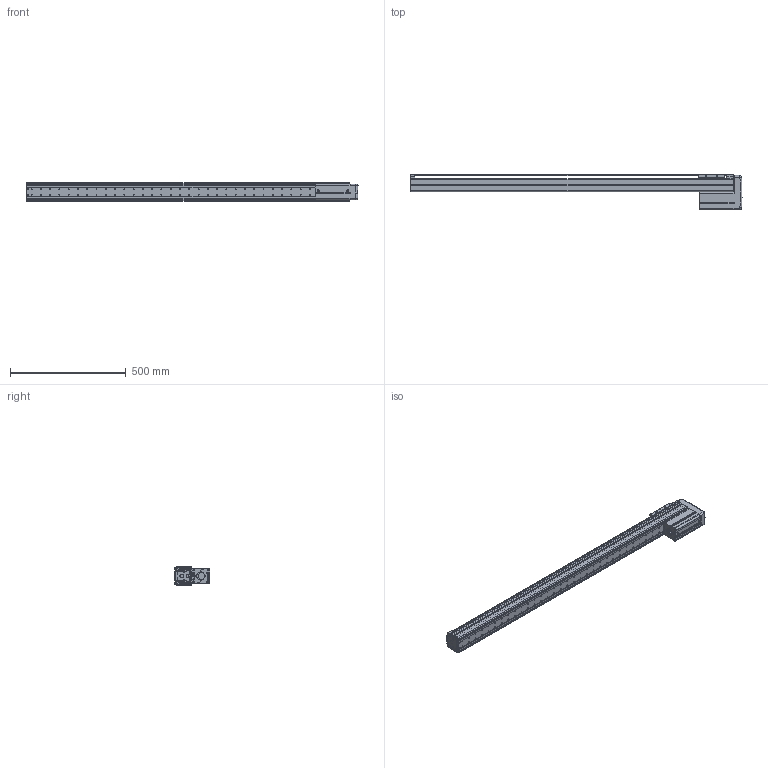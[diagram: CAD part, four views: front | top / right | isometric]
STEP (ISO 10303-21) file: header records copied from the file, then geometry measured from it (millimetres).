
FILE_DESCRIPTION((''),'2;1');
FILE_NAME('BE10E-UU-M_N-C0_IGS_PRT','2017-06-17T',(' '),(''),'PRO/ENGINEER BY PARAMETRIC TECHNOLOGY CORPORATION, 2015030','PRO/ENGINEER BY PARAMETRIC TECHNOLOGY CORPORATION, 2015030','');
FILE_SCHEMA(('CONFIG_CONTROL_DESIGN'));
Length unit declared in the file: millimetre
Products named in the file (1): BE10E-UU-M_N-C0_IGS_PRT
Bounding box: 1431.42 x 153 x 78 mm (x, y, z)
Volume: 1881806.8 mm3; surface area: 1263799.4 mm2
Topology: 2 solids, 147 shells, 1955 faces, 5302 edges, 3464 vertices
Faces by surface type: cylinder 985, plane 742, cone 81, torus 69, sphere 44, bspline 34
Entity records: 64305 total; most frequent: CARTESIAN_POINT 13731, DIRECTION 10964, ORIENTED_EDGE 9962, EDGE_CURVE 5262, AXIS2_PLACEMENT_3D 4142, VERTEX_POINT 3464, VECTOR 2680, LINE 2680
